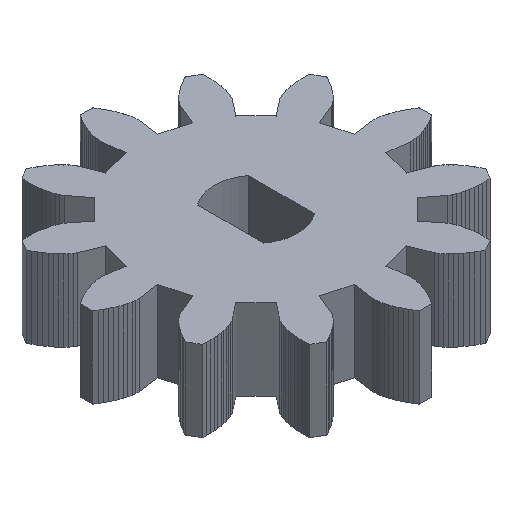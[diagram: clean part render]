
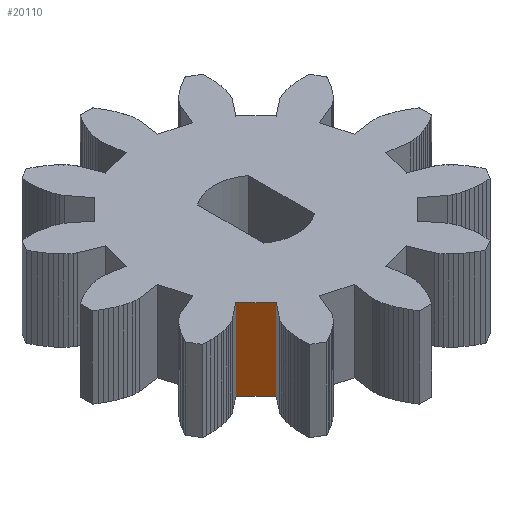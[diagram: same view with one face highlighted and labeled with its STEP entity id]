
A CAD part, isometric view. The second image highlights one B-rep face of the part: STEP entity #20110.
In plain terms, the highlighted planar face has unit normal (-0.707, -0.707, 0).
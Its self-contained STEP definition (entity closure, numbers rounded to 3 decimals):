
#72 = PLANE('',#73);
#73 = AXIS2_PLACEMENT_3D('',#74,#75,#76);
#74 = CARTESIAN_POINT('',(0.,0.,5.));
#75 = DIRECTION('',(0.,0.,1.));
#76 = DIRECTION('',(1.,0.,0.));
#126 = PLANE('',#127);
#127 = AXIS2_PLACEMENT_3D('',#128,#129,#130);
#128 = CARTESIAN_POINT('',(0.,0.,0.));
#129 = DIRECTION('',(0.,0.,1.));
#130 = DIRECTION('',(1.,0.,0.));
#5583 = VERTEX_POINT('',#5584);
#5584 = CARTESIAN_POINT('',(-5.624,-4.374,0.));
#5598 = PLANE('',#5599);
#5599 = AXIS2_PLACEMENT_3D('',#5600,#5601,#5602);
#5600 = CARTESIAN_POINT('',(-6.676,-5.192,0.));
#5601 = DIRECTION('',(-0.614,0.789,0.));
#5602 = DIRECTION('',(0.789,0.614,0.));
#5610 = EDGE_CURVE('',#5583,#5611,#5613,.T.);
#5611 = VERTEX_POINT('',#5612);
#5612 = CARTESIAN_POINT('',(-4.374,-5.624,0.));
#5613 = SURFACE_CURVE('',#5614,(#5618,#5625),.PCURVE_S1.);
#5614 = LINE('',#5615,#5616);
#5615 = CARTESIAN_POINT('',(-5.624,-4.374,0.));
#5616 = VECTOR('',#5617,1.);
#5617 = DIRECTION('',(0.707,-0.707,0.));
#5618 = PCURVE('',#126,#5619);
#5619 = DEFINITIONAL_REPRESENTATION('',(#5620),#5624);
#5620 = LINE('',#5621,#5622);
#5621 = CARTESIAN_POINT('',(-5.624,-4.374));
#5622 = VECTOR('',#5623,1.);
#5623 = DIRECTION('',(0.707,-0.707));
#5624 = ( GEOMETRIC_REPRESENTATION_CONTEXT(2) 
PARAMETRIC_REPRESENTATION_CONTEXT() REPRESENTATION_CONTEXT('2D SPACE',''
  ) );
#5625 = PCURVE('',#5626,#5631);
#5626 = PLANE('',#5627);
#5627 = AXIS2_PLACEMENT_3D('',#5628,#5629,#5630);
#5628 = CARTESIAN_POINT('',(-5.624,-4.374,0.));
#5629 = DIRECTION('',(0.707,0.707,0.));
#5630 = DIRECTION('',(0.707,-0.707,0.));
#5631 = DEFINITIONAL_REPRESENTATION('',(#5632),#5636);
#5632 = LINE('',#5633,#5634);
#5633 = CARTESIAN_POINT('',(0.,0.));
#5634 = VECTOR('',#5635,1.);
#5635 = DIRECTION('',(1.,0.));
#5636 = ( GEOMETRIC_REPRESENTATION_CONTEXT(2) 
PARAMETRIC_REPRESENTATION_CONTEXT() REPRESENTATION_CONTEXT('2D SPACE',''
  ) );
#5654 = PLANE('',#5655);
#5655 = AXIS2_PLACEMENT_3D('',#5656,#5657,#5658);
#5656 = CARTESIAN_POINT('',(-4.374,-5.624,0.));
#5657 = DIRECTION('',(0.789,-0.614,0.));
#5658 = DIRECTION('',(-0.614,-0.789,0.));
#12733 = VERTEX_POINT('',#12734);
#12734 = CARTESIAN_POINT('',(-5.624,-4.374,5.));
#12755 = EDGE_CURVE('',#12733,#12756,#12758,.T.);
#12756 = VERTEX_POINT('',#12757);
#12757 = CARTESIAN_POINT('',(-4.374,-5.624,5.));
#12758 = SURFACE_CURVE('',#12759,(#12763,#12770),.PCURVE_S1.);
#12759 = LINE('',#12760,#12761);
#12760 = CARTESIAN_POINT('',(-5.624,-4.374,5.));
#12761 = VECTOR('',#12762,1.);
#12762 = DIRECTION('',(0.707,-0.707,0.));
#12763 = PCURVE('',#72,#12764);
#12764 = DEFINITIONAL_REPRESENTATION('',(#12765),#12769);
#12765 = LINE('',#12766,#12767);
#12766 = CARTESIAN_POINT('',(-5.624,-4.374));
#12767 = VECTOR('',#12768,1.);
#12768 = DIRECTION('',(0.707,-0.707));
#12769 = ( GEOMETRIC_REPRESENTATION_CONTEXT(2) 
PARAMETRIC_REPRESENTATION_CONTEXT() REPRESENTATION_CONTEXT('2D SPACE',''
  ) );
#12770 = PCURVE('',#5626,#12771);
#12771 = DEFINITIONAL_REPRESENTATION('',(#12772),#12776);
#12772 = LINE('',#12773,#12774);
#12773 = CARTESIAN_POINT('',(0.,-5.));
#12774 = VECTOR('',#12775,1.);
#12775 = DIRECTION('',(1.,0.));
#12776 = ( GEOMETRIC_REPRESENTATION_CONTEXT(2) 
PARAMETRIC_REPRESENTATION_CONTEXT() REPRESENTATION_CONTEXT('2D SPACE',''
  ) );
#20060 = EDGE_CURVE('',#5611,#12756,#20061,.T.);
#20061 = SURFACE_CURVE('',#20062,(#20066,#20073),.PCURVE_S1.);
#20062 = LINE('',#20063,#20064);
#20063 = CARTESIAN_POINT('',(-4.374,-5.624,0.));
#20064 = VECTOR('',#20065,1.);
#20065 = DIRECTION('',(0.,0.,1.));
#20066 = PCURVE('',#5654,#20067);
#20067 = DEFINITIONAL_REPRESENTATION('',(#20068),#20072);
#20068 = LINE('',#20069,#20070);
#20069 = CARTESIAN_POINT('',(0.,0.));
#20070 = VECTOR('',#20071,1.);
#20071 = DIRECTION('',(0.,-1.));
#20072 = ( GEOMETRIC_REPRESENTATION_CONTEXT(2) 
PARAMETRIC_REPRESENTATION_CONTEXT() REPRESENTATION_CONTEXT('2D SPACE',''
  ) );
#20073 = PCURVE('',#5626,#20074);
#20074 = DEFINITIONAL_REPRESENTATION('',(#20075),#20079);
#20075 = LINE('',#20076,#20077);
#20076 = CARTESIAN_POINT('',(1.767,0.));
#20077 = VECTOR('',#20078,1.);
#20078 = DIRECTION('',(0.,-1.));
#20079 = ( GEOMETRIC_REPRESENTATION_CONTEXT(2) 
PARAMETRIC_REPRESENTATION_CONTEXT() REPRESENTATION_CONTEXT('2D SPACE',''
  ) );
#20110 = ADVANCED_FACE('',(#20111),#5626,.F.);
#20111 = FACE_BOUND('',#20112,.F.);
#20112 = EDGE_LOOP('',(#20113,#20134,#20135,#20136));
#20113 = ORIENTED_EDGE('',*,*,#20114,.T.);
#20114 = EDGE_CURVE('',#5583,#12733,#20115,.T.);
#20115 = SURFACE_CURVE('',#20116,(#20120,#20127),.PCURVE_S1.);
#20116 = LINE('',#20117,#20118);
#20117 = CARTESIAN_POINT('',(-5.624,-4.374,0.));
#20118 = VECTOR('',#20119,1.);
#20119 = DIRECTION('',(0.,0.,1.));
#20120 = PCURVE('',#5626,#20121);
#20121 = DEFINITIONAL_REPRESENTATION('',(#20122),#20126);
#20122 = LINE('',#20123,#20124);
#20123 = CARTESIAN_POINT('',(0.,0.));
#20124 = VECTOR('',#20125,1.);
#20125 = DIRECTION('',(0.,-1.));
#20126 = ( GEOMETRIC_REPRESENTATION_CONTEXT(2) 
PARAMETRIC_REPRESENTATION_CONTEXT() REPRESENTATION_CONTEXT('2D SPACE',''
  ) );
#20127 = PCURVE('',#5598,#20128);
#20128 = DEFINITIONAL_REPRESENTATION('',(#20129),#20133);
#20129 = LINE('',#20130,#20131);
#20130 = CARTESIAN_POINT('',(1.332,0.));
#20131 = VECTOR('',#20132,1.);
#20132 = DIRECTION('',(0.,-1.));
#20133 = ( GEOMETRIC_REPRESENTATION_CONTEXT(2) 
PARAMETRIC_REPRESENTATION_CONTEXT() REPRESENTATION_CONTEXT('2D SPACE',''
  ) );
#20134 = ORIENTED_EDGE('',*,*,#12755,.T.);
#20135 = ORIENTED_EDGE('',*,*,#20060,.F.);
#20136 = ORIENTED_EDGE('',*,*,#5610,.F.);
